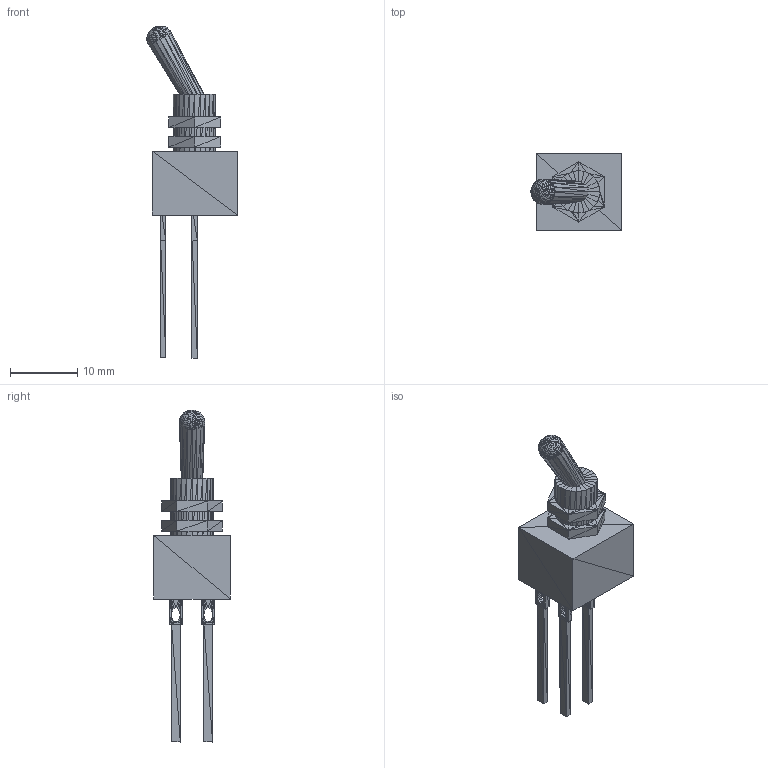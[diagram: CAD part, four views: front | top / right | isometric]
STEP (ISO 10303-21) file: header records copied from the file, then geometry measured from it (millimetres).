
FILE_DESCRIPTION(('HOOPS Exchange Step'),'2;1');
FILE_NAME('***.stp');
FILE_SCHEMA( ('AP242_MANAGED_MODEL_BASED_3D_ENGINEERING_MIM_LF {1 0 10303 442 1 1 4 }') );
Length unit declared in the file: inch
Products named in the file (14): SWSMDPST4PT_TOG_2; SWSMDPST4PT_TOG_3; SWSMDPST4PT_TOG_4; SWSMDPST4PT_TOG_5; SWSMDPST4PT_TOG_6; SWSMDPST4PT_TOG_7; SWSMDPST4PT_TOG_8; SWSMDPST4PT_TOG_9; SWSMDPST4PT_TOG_10; SWSMDPST4PT_TOG_11; SWSMDPST4PT_TOG_12; SWSMDPST4PT_TOG_13; SWSMDPST4PT_TOG_14; SWSMDPST4PT_TOG
Assembly tree (13 placements, depth 2):
  SWSMDPST4PT_TOG
    SWSMDPST4PT_TOG_2
    SWSMDPST4PT_TOG_3
    SWSMDPST4PT_TOG_4
    SWSMDPST4PT_TOG_5
    SWSMDPST4PT_TOG_6
    SWSMDPST4PT_TOG_7
    SWSMDPST4PT_TOG_8
    SWSMDPST4PT_TOG_9
    SWSMDPST4PT_TOG_10
    SWSMDPST4PT_TOG_11
    SWSMDPST4PT_TOG_12
    SWSMDPST4PT_TOG_13
    SWSMDPST4PT_TOG_14
Bounding box: 13.5 x 11.43 x 49.55 mm (x, y, z)
Volume: 1486.1 mm3; surface area: 2523.5 mm2
Topology: 9 solids, 1649 shells, 2036 faces, 1808 edges, 608 vertices
Faces by surface type: plane 2036
Entity records: 33240 total; most frequent: ORIENTED_EDGE 6108, DIRECTION 5936, CARTESIAN_POINT 4480, AXIS2_PLACEMENT_3D 2064, PLANE 2036, EDGE_LOOP 2036, FACE_BOUND 2036, ADVANCED_FACE 2036
